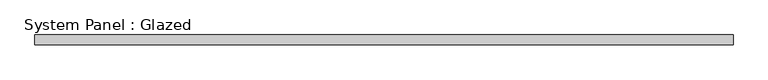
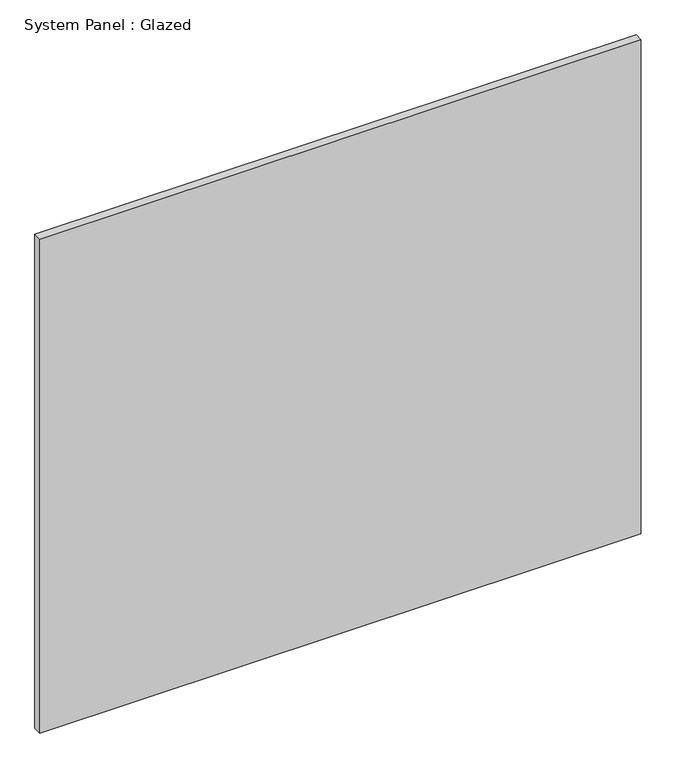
"""IFC4 building model written with IfcOpenShell, lengths in millimetres: plate geometry, System Panel : Glazed."""

from ifc_helpers import new_model, si_unit, origin, origin_with_axes, place, context, project, spatial, polyline, outline, extrude, source, transform, mapped, element, save


def system_panel_glazed_b366bfc2(model_context):
    return source(origin(), model_context, "Body", "SweptSolid", [
        extrude(outline(polyline([(907.033577, 19.05), (-907.033577, 19.05), (-907.033577, 44.45), (907.033577, 44.45), (907.033577, 19.05)])), origin_with_axes(), (0.0, 0.0, 1.0), 1574.8),
    ])


if __name__ == "__main__":
    model = new_model("IFC4")
    model_context = context("Model", 3, world=origin())
    ifc_project = project(units=[si_unit("LENGTHUNIT", "METRE", prefix="MILLI")], contexts=[model_context])
    site = spatial("IfcSite", under=ifc_project)
    building = spatial("IfcBuilding", under=site)
    placement = place(None, origin())
    system_panel_glazed_shape = system_panel_glazed_b366bfc2(model_context)
    element("IfcPlate", 1, ObjectType="System Panel : Glazed", at=placement, inside=building, context=model_context, shape_type="MappedRepresentation", body=[
        mapped(system_panel_glazed_shape, transform((0.0, 0.0, 0.0), x_axis=(1.0, 0.0, 0.0), y_axis=(0.0, 1.0, 0.0), z_axis=(0.0, 0.0, 1.0))),
    ])
    save(model, "model.ifc")
